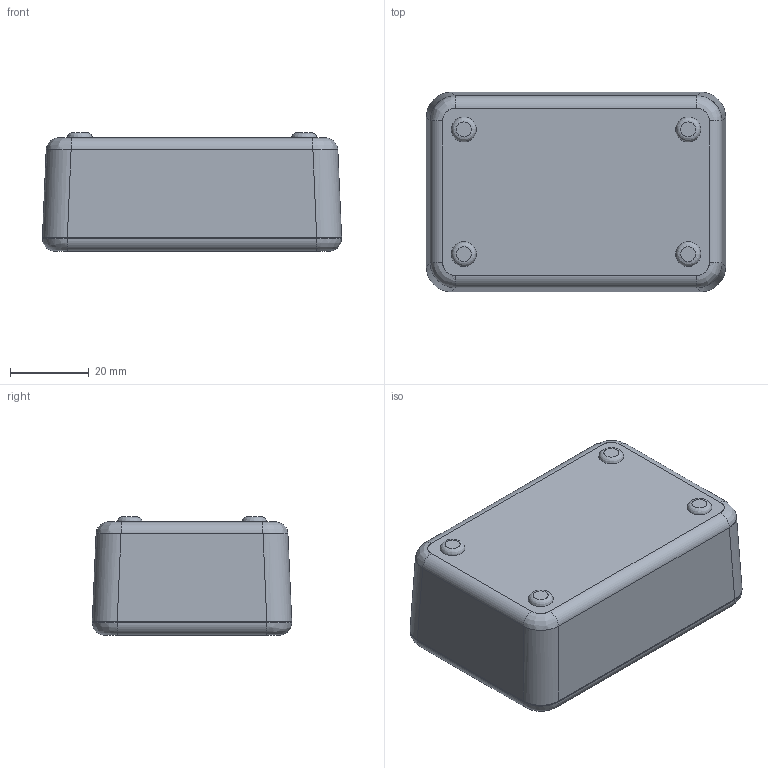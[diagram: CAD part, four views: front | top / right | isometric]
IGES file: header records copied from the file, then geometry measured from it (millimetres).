
Global section: file name: No Iges File Name specified; native system: AutoDesk Inventor R6.0; preprocessor: AutoDesk Inventor Iges Exporter R6.0; author: No Author specified; organization: No Organization specified; date: 20080103.173147; units: inch
Bounding box: 76.2 x 50.8 x 30.1 mm (x, y, z)
Surface area: 33265 mm2 (no closed solid volume)
Topology: 0 solids, 0 shells, 207 faces, 972 edges, 940 vertices
Faces by surface type: plane 77, revolution 66, bspline 64
